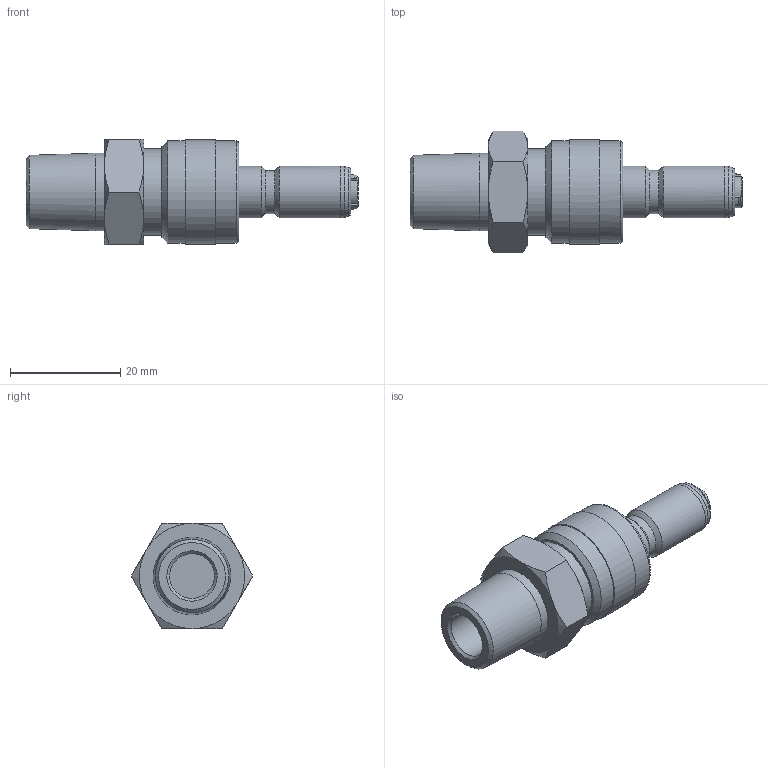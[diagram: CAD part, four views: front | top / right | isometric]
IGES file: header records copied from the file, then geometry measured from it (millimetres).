
Global section: file name: SQC2P-M4N-S0; native system: Autodesk Inventor 2016; preprocessor: unknown; author: 이승민,,11,0; organization: 20170208.102149; date: 20170209.081346; units: millimetre
Bounding box: 60.1 x 22 x 19.05 mm (x, y, z)
Volume: 8560.1 mm3; surface area: 4605.9 mm2
Topology: 1 solids, 1 shells, 94 faces, 255 edges, 177 vertices
Faces by surface type: bspline 94
